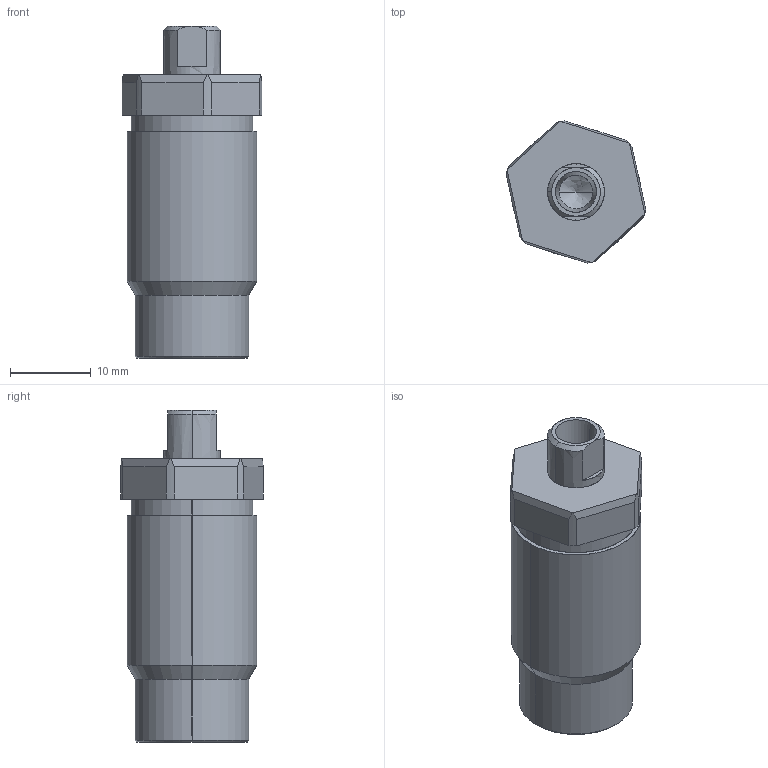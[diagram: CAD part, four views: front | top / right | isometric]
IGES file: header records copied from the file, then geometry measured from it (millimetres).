
Start section: SolidWorks IGES file using analytic representation for surfaces
Global section: file name: E:\ALL SSVT IGS MODEL\ALL THREADED BODY CYLINDER-S-M-L-IGS MODEL\TC06-M160-S-M-L-IGS AND STEPP FILE\M22X1.5-S.IGS; native system: SolidWorks 2019; preprocessor: SolidWorks 2019; author: SSVT; date: 210827.113834; units: millimetre
Bounding box: 17.25 x 17.57 x 41 mm (x, y, z)
Surface area: 3781.8 mm2 (no closed solid volume)
Topology: 0 solids, 0 shells, 57 faces, 613 edges, 611 vertices
Faces by surface type: revolution 33, bspline 24
